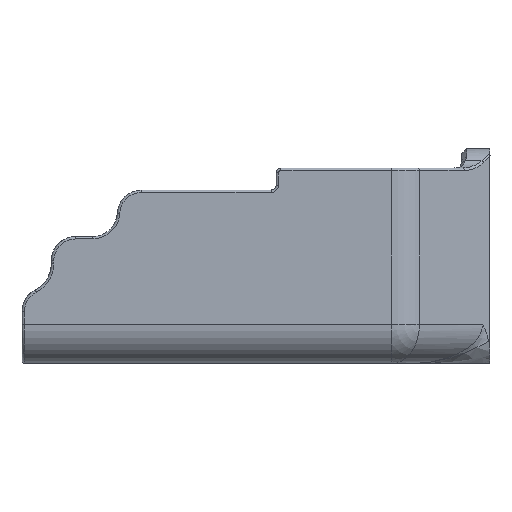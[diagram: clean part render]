
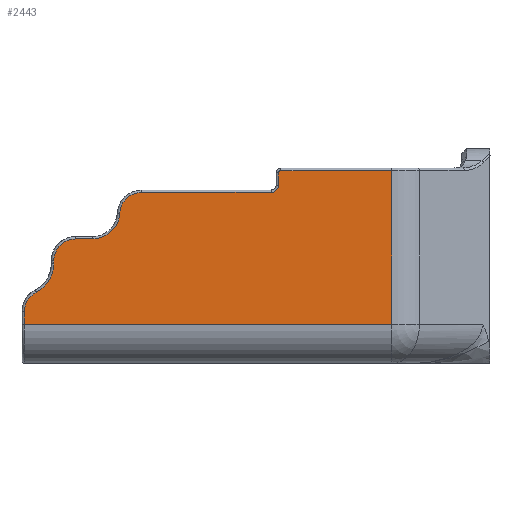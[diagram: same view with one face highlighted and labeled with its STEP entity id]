
A CAD part, left-side view. The second image highlights one B-rep face of the part: STEP entity #2443.
In plain terms, the highlighted planar face has unit normal (-1, 0, 0).
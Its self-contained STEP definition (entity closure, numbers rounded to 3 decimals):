
#1000=AXIS2_PLACEMENT_3D('Circle Axis2P3D',#998,#999,$) ;
#1031=AXIS2_PLACEMENT_3D('Circle Axis2P3D',#1029,#1030,$) ;
#1093=AXIS2_PLACEMENT_3D('Circle Axis2P3D',#1091,#1092,$) ;
#1155=AXIS2_PLACEMENT_3D('Circle Axis2P3D',#1153,#1154,$) ;
#1186=AXIS2_PLACEMENT_3D('Circle Axis2P3D',#1184,#1185,$) ;
#1248=AXIS2_PLACEMENT_3D('Circle Axis2P3D',#1246,#1247,$) ;
#1310=AXIS2_PLACEMENT_3D('Circle Axis2P3D',#1308,#1309,$) ;
#2424=AXIS2_PLACEMENT_3D('Plane Axis2P3D',#2421,#2422,#2423) ;
#926=CARTESIAN_POINT('Vertex',(0.,89.3,8.)) ;
#957=CARTESIAN_POINT('Vertex',(0.,89.3,10.602)) ;
#967=CARTESIAN_POINT('Line Origine',(0.,89.3,22.14)) ;
#988=CARTESIAN_POINT('Vertex',(0.,86.845,14.61)) ;
#998=CARTESIAN_POINT('Axis2P3D Location',(0.,84.8,10.602)) ;
#1019=CARTESIAN_POINT('Vertex',(0.,83.3,20.4)) ;
#1029=CARTESIAN_POINT('Axis2P3D Location',(0.,89.8,20.4)) ;
#1050=CARTESIAN_POINT('Vertex',(0.,83.3,21.)) ;
#1060=CARTESIAN_POINT('Line Origine',(0.,83.3,24.)) ;
#1081=CARTESIAN_POINT('Vertex',(0.,78.8,25.5)) ;
#1091=CARTESIAN_POINT('Axis2P3D Location',(0.,78.8,21.)) ;
#1112=CARTESIAN_POINT('Vertex',(0.,75.3,25.5)) ;
#1122=CARTESIAN_POINT('Line Origine',(0.,51.957,25.5)) ;
#1143=CARTESIAN_POINT('Vertex',(0.,69.807,30.725)) ;
#1153=CARTESIAN_POINT('Axis2P3D Location',(0.,75.3,31.)) ;
#1174=CARTESIAN_POINT('Vertex',(0.,65.312,35.)) ;
#1184=CARTESIAN_POINT('Axis2P3D Location',(0.,65.312,30.5)) ;
#1205=CARTESIAN_POINT('Vertex',(0.,38.8,35.)) ;
#1215=CARTESIAN_POINT('Line Origine',(0.,51.957,35.)) ;
#1236=CARTESIAN_POINT('Vertex',(0.,37.3,36.5)) ;
#1246=CARTESIAN_POINT('Axis2P3D Location',(0.,38.8,36.5)) ;
#1267=CARTESIAN_POINT('Vertex',(0.,37.3,39.)) ;
#1277=CARTESIAN_POINT('Line Origine',(0.,37.3,24.)) ;
#1298=CARTESIAN_POINT('Vertex',(0.,36.8,39.5)) ;
#1308=CARTESIAN_POINT('Axis2P3D Location',(0.,36.8,39.)) ;
#1329=CARTESIAN_POINT('Vertex',(0.,14.114,39.5)) ;
#1339=CARTESIAN_POINT('Line Origine',(0.,48.128,39.5)) ;
#1764=CARTESIAN_POINT('Line Origine',(0.,14.114,21.93)) ;
#1768=CARTESIAN_POINT('Vertex',(0.,14.114,8.)) ;
#2099=CARTESIAN_POINT('Line Origine',(0.,41.9,8.)) ;
#2421=CARTESIAN_POINT('Axis2P3D Location',(0.,89.8,0.)) ;
#968=DIRECTION('Vector Direction',(0.,0.,1.)) ;
#999=DIRECTION('Axis2P3D Direction',(-1.,-0.,0.)) ;
#1030=DIRECTION('Axis2P3D Direction',(-1.,0.,0.)) ;
#1061=DIRECTION('Vector Direction',(0.,0.,-1.)) ;
#1092=DIRECTION('Axis2P3D Direction',(-1.,-0.,0.)) ;
#1123=DIRECTION('Vector Direction',(0.,1.,0.)) ;
#1154=DIRECTION('Axis2P3D Direction',(-1.,0.,0.)) ;
#1185=DIRECTION('Axis2P3D Direction',(-1.,-0.,0.)) ;
#1216=DIRECTION('Vector Direction',(0.,-1.,0.)) ;
#1247=DIRECTION('Axis2P3D Direction',(-1.,0.,0.)) ;
#1278=DIRECTION('Vector Direction',(0.,0.,1.)) ;
#1309=DIRECTION('Axis2P3D Direction',(-1.,-0.,0.)) ;
#1340=DIRECTION('Vector Direction',(0.,-1.,0.)) ;
#1765=DIRECTION('Vector Direction',(0.,0.,1.)) ;
#2100=DIRECTION('Vector Direction',(0.,-1.,0.)) ;
#2422=DIRECTION('Axis2P3D Direction',(-1.,0.,0.)) ;
#2423=DIRECTION('Axis2P3D XDirection',(0.,-1.,0.)) ;
#969=VECTOR('Line Direction',#968,1.) ;
#1062=VECTOR('Line Direction',#1061,1.) ;
#1124=VECTOR('Line Direction',#1123,1.) ;
#1217=VECTOR('Line Direction',#1216,1.) ;
#1279=VECTOR('Line Direction',#1278,1.) ;
#1341=VECTOR('Line Direction',#1340,1.) ;
#1766=VECTOR('Line Direction',#1765,1.) ;
#2101=VECTOR('Line Direction',#2100,1.) ;
#2427=ORIENTED_EDGE('',*,*,#2103,.F.) ;
#2428=ORIENTED_EDGE('',*,*,#1770,.T.) ;
#2429=ORIENTED_EDGE('',*,*,#1343,.T.) ;
#2430=ORIENTED_EDGE('',*,*,#1312,.T.) ;
#2431=ORIENTED_EDGE('',*,*,#1281,.T.) ;
#2432=ORIENTED_EDGE('',*,*,#1250,.T.) ;
#2433=ORIENTED_EDGE('',*,*,#1219,.T.) ;
#2434=ORIENTED_EDGE('',*,*,#1188,.T.) ;
#2435=ORIENTED_EDGE('',*,*,#1157,.T.) ;
#2436=ORIENTED_EDGE('',*,*,#1126,.T.) ;
#2437=ORIENTED_EDGE('',*,*,#1095,.T.) ;
#2438=ORIENTED_EDGE('',*,*,#1064,.T.) ;
#2439=ORIENTED_EDGE('',*,*,#1033,.T.) ;
#2440=ORIENTED_EDGE('',*,*,#1002,.T.) ;
#2441=ORIENTED_EDGE('',*,*,#971,.T.) ;
#2443=ADVANCED_FACE('VOLCANO_Doppia_5015_Ventola_Dadi',(#2442),#2425,.T.) ;
#1001=CIRCLE('generated circle',#1000,4.5) ;
#1032=CIRCLE('generated circle',#1031,6.5) ;
#1094=CIRCLE('generated circle',#1093,4.5) ;
#1156=CIRCLE('generated circle',#1155,5.5) ;
#1187=CIRCLE('generated circle',#1186,4.5) ;
#1249=CIRCLE('generated circle',#1248,1.5) ;
#1311=CIRCLE('generated circle',#1310,0.5) ;
#971=EDGE_CURVE('',#958,#927,#970,.F.) ;
#1002=EDGE_CURVE('',#989,#958,#1001,.T.) ;
#1033=EDGE_CURVE('',#1020,#989,#1032,.F.) ;
#1064=EDGE_CURVE('',#1051,#1020,#1063,.T.) ;
#1095=EDGE_CURVE('',#1082,#1051,#1094,.T.) ;
#1126=EDGE_CURVE('',#1113,#1082,#1125,.T.) ;
#1157=EDGE_CURVE('',#1144,#1113,#1156,.F.) ;
#1188=EDGE_CURVE('',#1175,#1144,#1187,.T.) ;
#1219=EDGE_CURVE('',#1206,#1175,#1218,.F.) ;
#1250=EDGE_CURVE('',#1237,#1206,#1249,.F.) ;
#1281=EDGE_CURVE('',#1268,#1237,#1280,.F.) ;
#1312=EDGE_CURVE('',#1299,#1268,#1311,.T.) ;
#1343=EDGE_CURVE('',#1330,#1299,#1342,.F.) ;
#1770=EDGE_CURVE('',#1769,#1330,#1767,.T.) ;
#2103=EDGE_CURVE('',#1769,#927,#2102,.F.) ;
#2426=EDGE_LOOP('',(#2427,#2428,#2429,#2430,#2431,#2432,#2433,#2434,#2435,#2436,#2437,#2438,#2439,#2440,#2441)) ;
#2442=FACE_OUTER_BOUND('',#2426,.T.) ;
#970=LINE('Line',#967,#969) ;
#1063=LINE('Line',#1060,#1062) ;
#1125=LINE('Line',#1122,#1124) ;
#1218=LINE('Line',#1215,#1217) ;
#1280=LINE('Line',#1277,#1279) ;
#1342=LINE('Line',#1339,#1341) ;
#1767=LINE('Line',#1764,#1766) ;
#2102=LINE('Line',#2099,#2101) ;
#2425=PLANE('',#2424) ;
#927=VERTEX_POINT('',#926) ;
#958=VERTEX_POINT('',#957) ;
#989=VERTEX_POINT('',#988) ;
#1020=VERTEX_POINT('',#1019) ;
#1051=VERTEX_POINT('',#1050) ;
#1082=VERTEX_POINT('',#1081) ;
#1113=VERTEX_POINT('',#1112) ;
#1144=VERTEX_POINT('',#1143) ;
#1175=VERTEX_POINT('',#1174) ;
#1206=VERTEX_POINT('',#1205) ;
#1237=VERTEX_POINT('',#1236) ;
#1268=VERTEX_POINT('',#1267) ;
#1299=VERTEX_POINT('',#1298) ;
#1330=VERTEX_POINT('',#1329) ;
#1769=VERTEX_POINT('',#1768) ;
